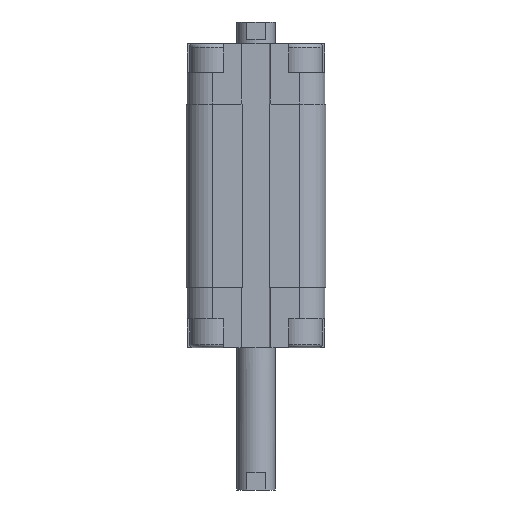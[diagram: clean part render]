
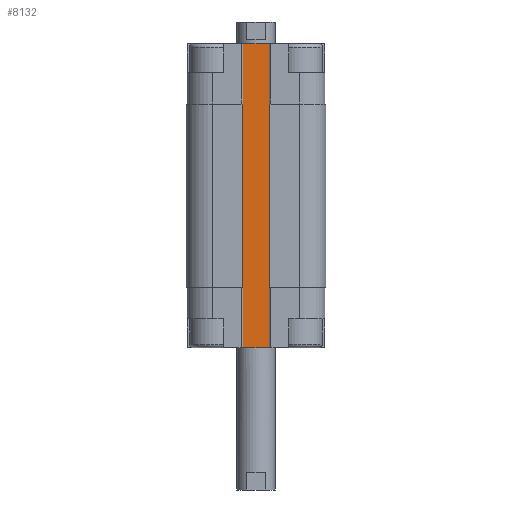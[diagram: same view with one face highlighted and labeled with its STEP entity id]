
A CAD part, front view. The second image highlights one B-rep face of the part: STEP entity #8132.
In plain terms, the highlighted planar face has unit normal (0, -1, 0).
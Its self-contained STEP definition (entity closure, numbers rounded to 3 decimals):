
#143 = VERTEX_POINT ( 'NONE', #5937 ) ;
#246 = LINE ( 'NONE', #12449, #8167 ) ;
#250 = VECTOR ( 'NONE', #10206, 1000. ) ;
#266 = EDGE_CURVE ( 'NONE', #13717, #9579, #626, .T. ) ;
#515 = DIRECTION ( 'NONE',  ( 0., 0., 1. ) ) ;
#626 = LINE ( 'NONE', #2135, #250 ) ;
#742 = ORIENTED_EDGE ( 'NONE', *, *, #266, .T. ) ;
#1122 = CARTESIAN_POINT ( 'NONE',  ( -3., -9.5, 0. ) ) ;
#1132 = DIRECTION ( 'NONE',  ( 0., 0., 1. ) ) ;
#1618 = VECTOR ( 'NONE', #10585, 1000. ) ;
#2135 = CARTESIAN_POINT ( 'NONE',  ( 3.2, -9.5, -50.5 ) ) ;
#2234 = VERTEX_POINT ( 'NONE', #8659 ) ;
#2268 = VERTEX_POINT ( 'NONE', #16918 ) ;
#2541 = CARTESIAN_POINT ( 'NONE',  ( 3., -9.5, -50.5 ) ) ;
#2669 = ORIENTED_EDGE ( 'NONE', *, *, #3490, .F. ) ;
#2799 = CARTESIAN_POINT ( 'NONE',  ( 3., -9.5, -12.5 ) ) ;
#2956 = ORIENTED_EDGE ( 'NONE', *, *, #12078, .F. ) ;
#2983 = CARTESIAN_POINT ( 'NONE',  ( -3., -9.5, -12.5 ) ) ;
#3465 = LINE ( 'NONE', #8764, #11366 ) ;
#3490 = EDGE_CURVE ( 'NONE', #10993, #143, #3941, .T. ) ;
#3590 = CARTESIAN_POINT ( 'NONE',  ( -3.2, -9.5, -12.5 ) ) ;
#3687 = DIRECTION ( 'NONE',  ( 1., 0., 0. ) ) ;
#3740 = LINE ( 'NONE', #5354, #10890 ) ;
#3758 = ORIENTED_EDGE ( 'NONE', *, *, #6910, .T. ) ;
#3941 = LINE ( 'NONE', #17405, #1618 ) ;
#3978 = LINE ( 'NONE', #2799, #17533 ) ;
#4328 = PLANE ( 'NONE',  #9779 ) ;
#4661 = LINE ( 'NONE', #15685, #12004 ) ;
#4855 = EDGE_CURVE ( 'NONE', #12338, #5607, #4661, .T. ) ;
#4939 = VECTOR ( 'NONE', #16808, 1000. ) ;
#5095 = CARTESIAN_POINT ( 'NONE',  ( -3.2, -9.5, -50.5 ) ) ;
#5354 = CARTESIAN_POINT ( 'NONE',  ( -3.2, -9.5, -50.5 ) ) ;
#5395 = ORIENTED_EDGE ( 'NONE', *, *, #17197, .F. ) ;
#5607 = VERTEX_POINT ( 'NONE', #13846 ) ;
#5794 = CARTESIAN_POINT ( 'NONE',  ( -3., -9.5, -63. ) ) ;
#5937 = CARTESIAN_POINT ( 'NONE',  ( 3., -9.5, 0. ) ) ;
#6223 = EDGE_CURVE ( 'NONE', #8859, #2234, #6392, .T. ) ;
#6392 = LINE ( 'NONE', #3590, #8670 ) ;
#6910 = EDGE_CURVE ( 'NONE', #12338, #2268, #16342, .T. ) ;
#7553 = ORIENTED_EDGE ( 'NONE', *, *, #8180, .T. ) ;
#7695 = LINE ( 'NONE', #5095, #12620 ) ;
#7948 = DIRECTION ( 'NONE',  ( 1., 0., 0. ) ) ;
#8020 = VERTEX_POINT ( 'NONE', #2541 ) ;
#8132 = ADVANCED_FACE ( 'NONE', ( #16621 ), #4328, .T. ) ;
#8143 = EDGE_CURVE ( 'NONE', #12908, #143, #3978, .T. ) ;
#8167 = VECTOR ( 'NONE', #9660, 1000. ) ;
#8180 = EDGE_CURVE ( 'NONE', #8020, #13717, #15637, .T. ) ;
#8460 = CARTESIAN_POINT ( 'NONE',  ( -3.2, -9.5, -50.5 ) ) ;
#8462 = DIRECTION ( 'NONE',  ( -1., 0., 0. ) ) ;
#8659 = CARTESIAN_POINT ( 'NONE',  ( -3., -9.5, -12.5 ) ) ;
#8670 = VECTOR ( 'NONE', #3687, 1000. ) ;
#8734 = LINE ( 'NONE', #12682, #11586 ) ;
#8764 = CARTESIAN_POINT ( 'NONE',  ( -3., -9.5, -12.5 ) ) ;
#8859 = VERTEX_POINT ( 'NONE', #10311 ) ;
#8882 = ORIENTED_EDGE ( 'NONE', *, *, #9482, .T. ) ;
#9482 = EDGE_CURVE ( 'NONE', #2268, #8020, #8734, .T. ) ;
#9579 = VERTEX_POINT ( 'NONE', #14560 ) ;
#9660 = DIRECTION ( 'NONE',  ( 1., 0., 0. ) ) ;
#9779 = AXIS2_PLACEMENT_3D ( 'NONE', #2983, #15090, #8462 ) ;
#10206 = DIRECTION ( 'NONE',  ( 0., 0., 1. ) ) ;
#10311 = CARTESIAN_POINT ( 'NONE',  ( -3.2, -9.5, -12.5 ) ) ;
#10585 = DIRECTION ( 'NONE',  ( 1., 0., 0. ) ) ;
#10890 = VECTOR ( 'NONE', #7948, 1000. ) ;
#10993 = VERTEX_POINT ( 'NONE', #1122 ) ;
#11047 = DIRECTION ( 'NONE',  ( 0., 0., 1. ) ) ;
#11227 = ORIENTED_EDGE ( 'NONE', *, *, #16256, .T. ) ;
#11366 = VECTOR ( 'NONE', #515, 1000. ) ;
#11378 = ORIENTED_EDGE ( 'NONE', *, *, #4855, .F. ) ;
#11512 = DIRECTION ( 'NONE',  ( 0., 0., 1. ) ) ;
#11586 = VECTOR ( 'NONE', #11512, 1000. ) ;
#11592 = CARTESIAN_POINT ( 'NONE',  ( 3., -9.5, -12.5 ) ) ;
#12004 = VECTOR ( 'NONE', #15773, 1000. ) ;
#12078 = EDGE_CURVE ( 'NONE', #2234, #10993, #3465, .T. ) ;
#12314 = DIRECTION ( 'NONE',  ( 1., 0., 0. ) ) ;
#12338 = VERTEX_POINT ( 'NONE', #5794 ) ;
#12449 = CARTESIAN_POINT ( 'NONE',  ( 9., -9.5, -12.5 ) ) ;
#12620 = VECTOR ( 'NONE', #1132, 1000. ) ;
#12682 = CARTESIAN_POINT ( 'NONE',  ( 3., -9.5, -63. ) ) ;
#12908 = VERTEX_POINT ( 'NONE', #11592 ) ;
#13538 = ORIENTED_EDGE ( 'NONE', *, *, #6223, .F. ) ;
#13717 = VERTEX_POINT ( 'NONE', #15821 ) ;
#13846 = CARTESIAN_POINT ( 'NONE',  ( -3., -9.5, -50.5 ) ) ;
#13967 = VERTEX_POINT ( 'NONE', #8460 ) ;
#14560 = CARTESIAN_POINT ( 'NONE',  ( 3.2, -9.5, -12.5 ) ) ;
#15090 = DIRECTION ( 'NONE',  ( 0., -1., 0. ) ) ;
#15123 = VECTOR ( 'NONE', #12314, 1000. ) ;
#15156 = ORIENTED_EDGE ( 'NONE', *, *, #16175, .F. ) ;
#15184 = CARTESIAN_POINT ( 'NONE',  ( -3., -9.5, -63. ) ) ;
#15473 = CARTESIAN_POINT ( 'NONE',  ( -3.2, -9.5, -50.5 ) ) ;
#15637 = LINE ( 'NONE', #15473, #4939 ) ;
#15685 = CARTESIAN_POINT ( 'NONE',  ( -3., -9.5, -63. ) ) ;
#15773 = DIRECTION ( 'NONE',  ( 0., 0., 1. ) ) ;
#15821 = CARTESIAN_POINT ( 'NONE',  ( 3.2, -9.5, -50.5 ) ) ;
#16175 = EDGE_CURVE ( 'NONE', #13967, #8859, #7695, .T. ) ;
#16256 = EDGE_CURVE ( 'NONE', #13967, #5607, #3740, .T. ) ;
#16342 = LINE ( 'NONE', #15184, #15123 ) ;
#16621 = FACE_OUTER_BOUND ( 'NONE', #17712, .T. ) ;
#16808 = DIRECTION ( 'NONE',  ( 1., 0., 0. ) ) ;
#16918 = CARTESIAN_POINT ( 'NONE',  ( 3., -9.5, -63. ) ) ;
#17197 = EDGE_CURVE ( 'NONE', #12908, #9579, #246, .T. ) ;
#17246 = ORIENTED_EDGE ( 'NONE', *, *, #8143, .T. ) ;
#17405 = CARTESIAN_POINT ( 'NONE',  ( -3., -9.5, 0. ) ) ;
#17533 = VECTOR ( 'NONE', #11047, 1000. ) ;
#17712 = EDGE_LOOP ( 'NONE', ( #2669, #2956, #13538, #15156, #11227, #11378, #3758, #8882, #7553, #742, #5395, #17246 ) ) ;
